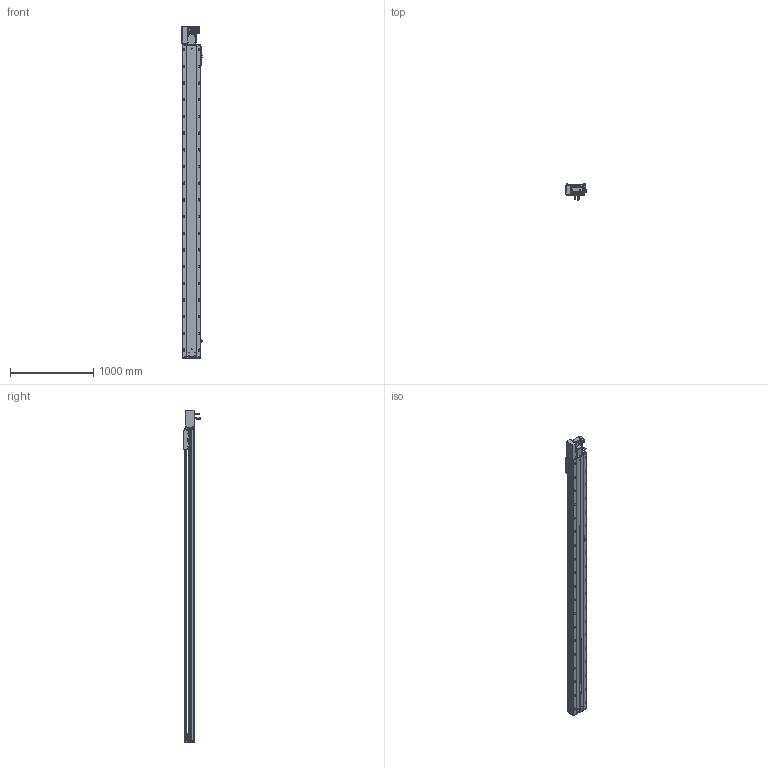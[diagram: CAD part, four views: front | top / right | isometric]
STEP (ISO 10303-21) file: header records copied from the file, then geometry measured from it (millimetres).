
FILE_DESCRIPTION (( 'STEP AP203' ), '1' );
FILE_NAME ('RY220-T-300-LK.SLDASM_3400.step', '2022-07-25T08:17:14', ( '' ), ( '' ), 'SwSTEP 2.0', 'SolidWorks 2016', '' );
FILE_SCHEMA (( 'CONFIG_CONTROL_DESIGN' ));
Length unit declared in the file: millimetre
Products named in the file (14): RY220圉猾敕々湍臏賑輸; RY220-T-300-LK.SLDASM_3400; RY220-T-300-奻裔啣_3400; RY220-同步轮副支撑座6304×2; 覜茼ん672; RY220-俋离672覜茼んえ; RY220-T-湍謫欶(鍼踢); RY220-T菁釱-300_3400; 滅袉蝶18-15; RY220翋肮祭謫裔啣; RY220-T-蛌殏萇儂假蚾啣(750W); 110A-T-肮祭謫釱傷裔; 怢湛750W_ECMA-CX0807ES; RY220翋肮祭謫釱
Assembly tree (18 placements, depth 2):
  RY220-T-300-LK.SLDASM_3400
    RY220-T菁釱-300_3400
    RY220翋肮祭謫釱
    覜茼ん672  x3
    RY220圉猾敕々湍臏賑輸
    RY220-T-300-奻裔啣_3400
    RY220-俋离672覜茼んえ
    滅袉蝶18-15  x3
    RY220翋肮祭謫裔啣  x2
    110A-T-肮祭謫釱傷裔
    怢湛750W_ECMA-CX0807ES
    RY220-T-湍謫欶(鍼踢)
    RY220-T-蛌殏萇儂假蚾啣(750W)
    RY220-同步轮副支撑座6304×2
Bounding box: 239.7 x 198.77 x 3979 mm (x, y, z)
Volume: 27793636.3 mm3; surface area: 8642703.3 mm2
Topology: 19 solids, 19 shells, 3112 faces, 8611 edges, 5374 vertices
Faces by surface type: cylinder 1552, plane 1069, cone 409, bspline 56, sphere 16, torus 10
Entity records: 103763 total; most frequent: CARTESIAN_POINT 29165, ORIENTED_EDGE 15386, DIRECTION 14940, EDGE_CURVE 7693, AXIS2_PLACEMENT_3D 5418, VERTEX_POINT 4998, LINE 4104, VECTOR 4104
